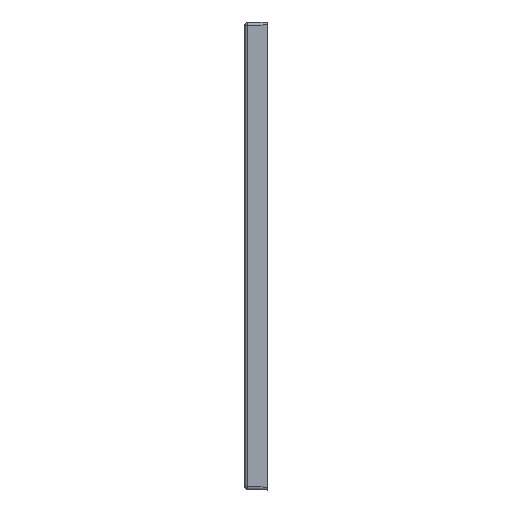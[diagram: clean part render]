
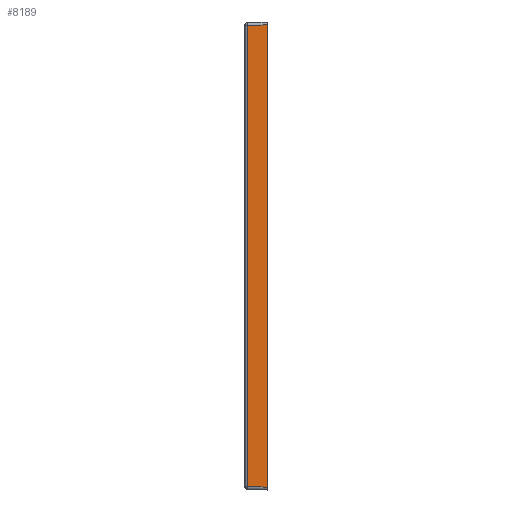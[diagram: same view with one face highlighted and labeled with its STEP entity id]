
A CAD part, left-side view. The second image highlights one B-rep face of the part: STEP entity #8189.
In plain terms, the highlighted planar face has unit normal (-1, 0.018, 0).
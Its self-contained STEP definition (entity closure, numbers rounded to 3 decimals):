
#2402 = VERTEX_POINT ( 'NONE', #42913 ) ;
#2826 = LINE ( 'NONE', #3375, #28226 ) ;
#3205 = DIRECTION ( 'NONE',  ( -0.017, -1., 0. ) ) ;
#3375 = CARTESIAN_POINT ( 'NONE',  ( -700.086, -4.913, -605. ) ) ;
#5159 = EDGE_CURVE ( 'NONE', #48932, #53896, #13067, .T. ) ;
#5619 = ORIENTED_EDGE ( 'NONE', *, *, #24317, .T. ) ;
#6645 = PLANE ( 'NONE',  #24089 ) ;
#8189 = ADVANCED_FACE ( 'NONE', ( #50592 ), #6645, .T. ) ;
#10951 = DIRECTION ( 'NONE',  ( 0., 0., 1. ) ) ;
#11990 = CARTESIAN_POINT ( 'NONE',  ( -700.663, -38., -600.664 ) ) ;
#12882 = ORIENTED_EDGE ( 'NONE', *, *, #5159, .T. ) ;
#13067 = LINE ( 'NONE', #21649, #53858 ) ;
#15778 = CARTESIAN_POINT ( 'NONE',  ( -700., 0., -605. ) ) ;
#18241 = EDGE_CURVE ( 'NONE', #27651, #48932, #32939, .T. ) ;
#21482 = DIRECTION ( 'NONE',  ( -0.017, -1., -0.017 ) ) ;
#21649 = CARTESIAN_POINT ( 'NONE',  ( -699.758, 13.868, 189.759 ) ) ;
#24089 = AXIS2_PLACEMENT_3D ( 'NONE', #15778, #33183, #3205 ) ;
#24317 = EDGE_CURVE ( 'NONE', #53896, #2402, #2826, .T. ) ;
#26032 = CARTESIAN_POINT ( 'NONE',  ( -700.663, -38., 190.664 ) ) ;
#27366 = EDGE_LOOP ( 'NONE', ( #5619, #35242, #42810, #12882 ) ) ;
#27651 = VERTEX_POINT ( 'NONE', #11990 ) ;
#28226 = VECTOR ( 'NONE', #55320, 1000. ) ;
#32939 = LINE ( 'NONE', #50337, #48997 ) ;
#33183 = DIRECTION ( 'NONE',  ( -1., 0.017, 0. ) ) ;
#35242 = ORIENTED_EDGE ( 'NONE', *, *, #50130, .T. ) ;
#39304 = CARTESIAN_POINT ( 'NONE',  ( -700.086, -4.913, 190.087 ) ) ;
#42501 = DIRECTION ( 'NONE',  ( 0.017, 1., -0.017 ) ) ;
#42810 = ORIENTED_EDGE ( 'NONE', *, *, #18241, .T. ) ;
#42913 = CARTESIAN_POINT ( 'NONE',  ( -700.086, -4.913, -600.087 ) ) ;
#48715 = VECTOR ( 'NONE', #21482, 1000. ) ;
#48932 = VERTEX_POINT ( 'NONE', #26032 ) ;
#48997 = VECTOR ( 'NONE', #10951, 1000. ) ;
#50130 = EDGE_CURVE ( 'NONE', #2402, #27651, #53611, .T. ) ;
#50337 = CARTESIAN_POINT ( 'NONE',  ( -700.663, -38., 195. ) ) ;
#50592 = FACE_OUTER_BOUND ( 'NONE', #27366, .T. ) ;
#53334 = CARTESIAN_POINT ( 'NONE',  ( -700.002, -0.087, -600.002 ) ) ;
#53611 = LINE ( 'NONE', #53334, #48715 ) ;
#53858 = VECTOR ( 'NONE', #42501, 1000. ) ;
#53896 = VERTEX_POINT ( 'NONE', #39304 ) ;
#55320 = DIRECTION ( 'NONE',  ( 0., 0., -1. ) ) ;
